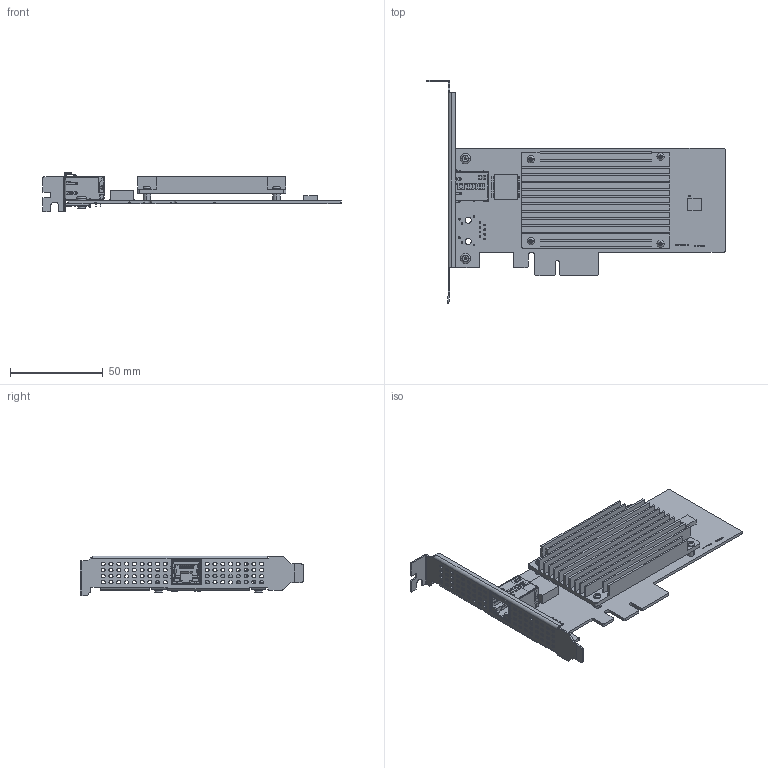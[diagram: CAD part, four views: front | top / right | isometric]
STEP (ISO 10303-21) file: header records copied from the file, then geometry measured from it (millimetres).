
FILE_DESCRIPTION((''),'2;1');
FILE_NAME('MV-20378REV10-202304111919_ASM','2023-06-09T11:13:50',('qinyangfan'),(''),'CREO PARAMETRIC BY PTC INC, 2020044','CREO PARAMETRIC BY PTC INC, 2020044','');
FILE_SCHEMA(('CONFIG_CONTROL_DESIGN'));
Products named in the file (9): MV-20378REV10-202304111919; 1055; 100300201; 910900984_ASM; 910601599_ASM; 101306305; 100201285; 100500107; MV-20378REV10-202304111919_ASM
Assembly tree (10 placements, depth 2):
  MV-20378REV10-202304111919_ASM
    MV-20378REV10-202304111919
    1055  x2
    100300201
    910900984_ASM
    910601599_ASM  x2
    101306305
    100201285
    100500107
Bounding box: 160.91 x 120.82 x 21.59 mm (x, y, z)
Volume: 34864.6 mm3; surface area: 56538.8 mm2
Topology: 23 solids, 40 shells, 3875 faces, 10761 edges, 7080 vertices
Faces by surface type: plane 2651, cylinder 1056, bspline 114, cone 30, torus 24
Entity records: 127977 total; most frequent: CARTESIAN_POINT 27865, ORIENTED_EDGE 21243, DIRECTION 19962, EDGE_CURVE 10650, VECTOR 8268, LINE 8268, VERTEX_POINT 6878, AXIS2_PLACEMENT_3D 5847
